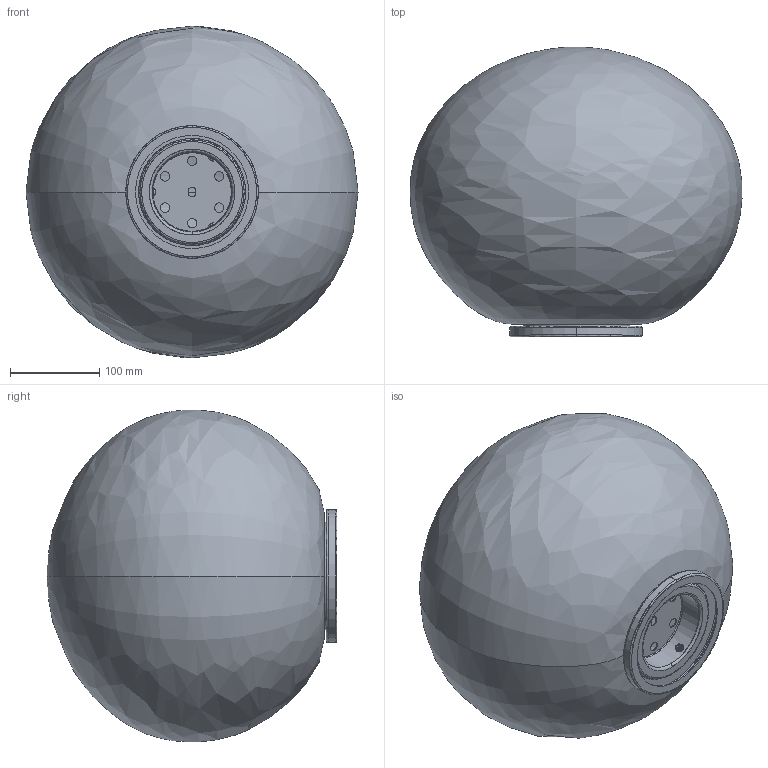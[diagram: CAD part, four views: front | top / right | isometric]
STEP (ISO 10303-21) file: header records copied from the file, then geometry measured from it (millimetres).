
FILE_DESCRIPTION (( 'STEP AP203' ), '1' );
FILE_NAME ('SPHERA_T3-37_STEP.STEP', '2016-01-27T08:26:26', ( 'admin' ), ( '' ), 'SwSTEP 2.0', 'SolidWorks 2015', '' );
FILE_SCHEMA (( 'CONFIG_CONTROL_DESIGN' ));
Length unit declared in the file: millimetre
Products named in the file (2): SPHERA_T3-37_STEP
Bounding box: 372.28 x 325.01 x 372 mm (x, y, z)
Volume: 1543722.5 mm3; surface area: 836690.5 mm2
Topology: 2 solids, 2 shells, 132 faces, 316 edges, 195 vertices
Faces by surface type: bspline 62, cylinder 51, plane 19
Entity records: 11485 total; most frequent: CARTESIAN_POINT 8685, ORIENTED_EDGE 624, DIRECTION 461, EDGE_CURVE 312, AXIS2_PLACEMENT_3D 205, VERTEX_POINT 195, EDGE_LOOP 165, CIRCLE 133
